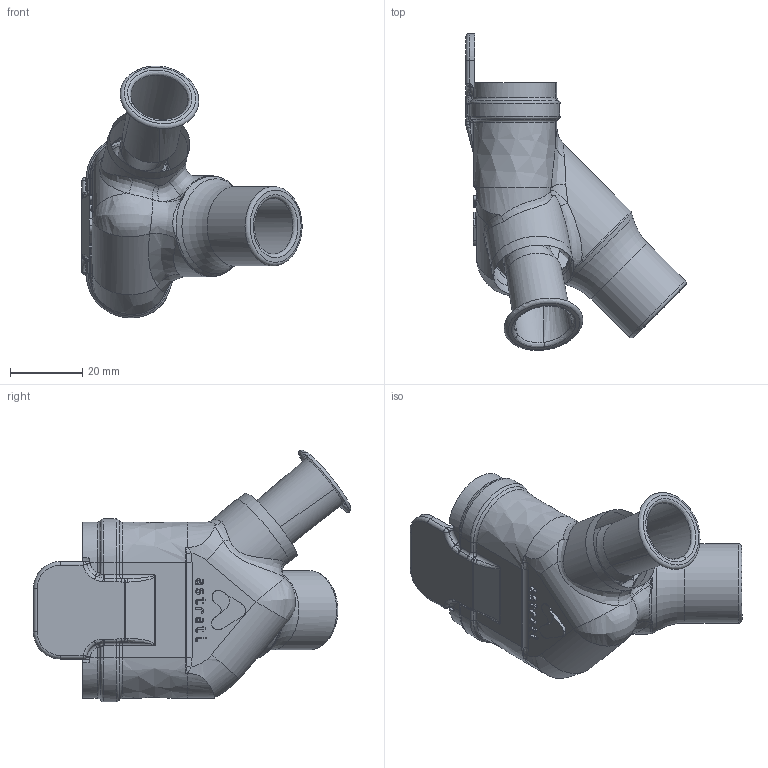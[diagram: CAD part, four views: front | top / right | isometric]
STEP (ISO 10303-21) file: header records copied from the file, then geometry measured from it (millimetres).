
FILE_DESCRIPTION(/* description */ (''),/* implementation_level */ '2;1');
FILE_NAME(/* name */ 'C:/Users/Enrico Olia/Desktop/charlotte valve/GioValve.step',/* time_stamp */ '2020-04-03T10:13:36+02:00',/* author */ (''),/* organization */ (''),/* preprocessor_version */ 'ST-DEVELOPER v18',/* originating_system */ 'Autodesk Translation Framework v8.12.0.6',/* authorisation */ '');
FILE_SCHEMA (('AUTOMOTIVE_DESIGN { 1 0 10303 214 3 1 1 }'));
Length unit declared in the file: millimetre
Products named in the file (1): GioValve
Bounding box: 61.02 x 87.82 x 69.76 mm (x, y, z)
Volume: 39027.3 mm3; surface area: 22347.3 mm2
Topology: 1 solids, 1 shells, 461 faces, 1286 edges, 823 vertices
Faces by surface type: bspline 235, plane 110, cylinder 77, torus 28, sphere 8, cone 3
Full cylindrical faces by diameter (mm): 13.5 x2, 15.5 x1, 22 x1, 22.6 x1
Entity records: 45378 total; most frequent: CARTESIAN_POINT 35183, ORIENTED_EDGE 2546, DIRECTION 1507, EDGE_CURVE 1273, VERTEX_POINT 823, AXIS2_PLACEMENT_3D 542, B_SPLINE_CURVE_WITH_KNOTS 526, EDGE_LOOP 476
